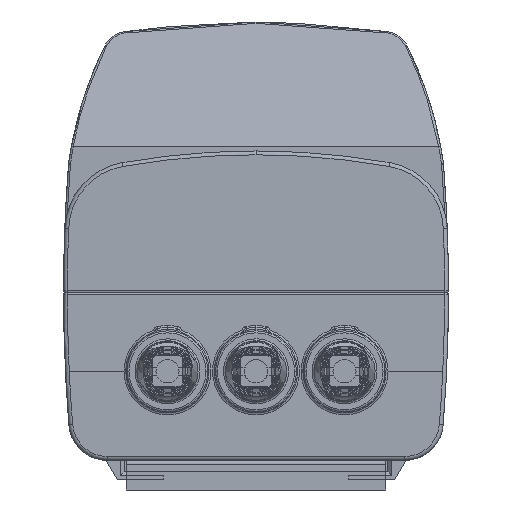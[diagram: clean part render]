
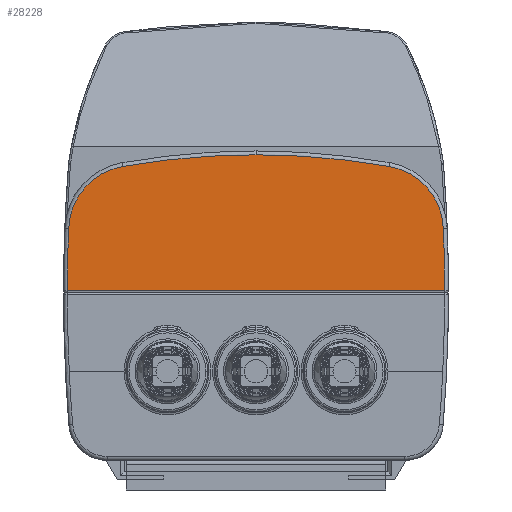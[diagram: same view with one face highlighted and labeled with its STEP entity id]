
A CAD part, front view. The second image highlights one B-rep face of the part: STEP entity #28228.
In plain terms, the highlighted planar face has unit normal (0, -1, 0).
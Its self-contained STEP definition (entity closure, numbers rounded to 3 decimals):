
#3458 = CARTESIAN_POINT ( 'NONE',  ( 4.668, -191.179, 19.312 ) ) ;
#3460 = CARTESIAN_POINT ( 'NONE',  ( -78.652, -191.179, 3.234 ) ) ;
#3465 = CARTESIAN_POINT ( 'NONE',  ( 18.695, -191.179, 3.234 ) ) ;
#3526 = CARTESIAN_POINT ( 'NONE',  ( 19.022, -191.179, -13. ) ) ;
#3556 = CARTESIAN_POINT ( 'NONE',  ( -78.978, -191.179, -13. ) ) ;
#5967 = CARTESIAN_POINT ( 'NONE',  ( -29.978, -191.179, -176.649 ) ) ;
#5969 = DIRECTION ( 'NONE',  ( 0., -1., 0. ) ) ;
#5970 = DIRECTION ( 'NONE',  ( 0., 0., 1. ) ) ;
#10939 = DIRECTION ( 'NONE',  ( 0., 1., 0. ) ) ;
#10941 = DIRECTION ( 'NONE',  ( 0., 0., 1. ) ) ;
#10960 = CARTESIAN_POINT ( 'NONE',  ( 20.022, -191.179, -50. ) ) ;
#10963 = PLANE ( 'NONE',  #37732 ) ;
#11853 = CARTESIAN_POINT ( 'NONE',  ( -64.624, -191.179, 19.312 ) ) ;
#11931 = CARTESIAN_POINT ( 'NONE',  ( -29.978, -191.179, 22.351 ) ) ;
#19709 = FACE_OUTER_BOUND ( 'NONE', #77211, .T. ) ;
#25491 = VERTEX_POINT ( 'NONE', #11853 ) ;
#25506 = VERTEX_POINT ( 'NONE', #11931 ) ;
#28228 = ADVANCED_FACE ( 'NONE', ( #19709 ), #10963, .F. ) ;
#37032 = VERTEX_POINT ( 'NONE', #3465 ) ;
#37051 = VERTEX_POINT ( 'NONE', #3458 ) ;
#37091 = VERTEX_POINT ( 'NONE', #3460 ) ;
#37137 = VERTEX_POINT ( 'NONE', #3526 ) ;
#37169 = VERTEX_POINT ( 'NONE', #3556 ) ;
#37732 = AXIS2_PLACEMENT_3D ( 'NONE', #10960, #10939, #10941 ) ;
#41405 = DIRECTION ( 'NONE',  ( 0., 0., 1. ) ) ;
#41434 = DIRECTION ( 'NONE',  ( 0., -1., 0. ) ) ;
#41465 = CARTESIAN_POINT ( 'NONE',  ( -409.978, -191.179, -13.5 ) ) ;
#41561 = CARTESIAN_POINT ( 'NONE',  ( -29.978, -191.179, -176.649 ) ) ;
#41565 = DIRECTION ( 'NONE',  ( 0., 0., 1. ) ) ;
#41570 = CARTESIAN_POINT ( 'NONE',  ( -61.665, -191.179, 2.571 ) ) ;
#41588 = DIRECTION ( 'NONE',  ( 0., -1., 0. ) ) ;
#41608 = DIRECTION ( 'NONE',  ( 0., -1., 0. ) ) ;
#41614 = DIRECTION ( 'NONE',  ( 0., 0., 1. ) ) ;
#41629 = DIRECTION ( 'NONE',  ( 0., -1., 0. ) ) ;
#41658 = CARTESIAN_POINT ( 'NONE',  ( 1.708, -191.179, 2.571 ) ) ;
#41659 = DIRECTION ( 'NONE',  ( 0., 0., 1. ) ) ;
#41686 = CARTESIAN_POINT ( 'NONE',  ( 350.022, -191.179, -13.5 ) ) ;
#41698 = DIRECTION ( 'NONE',  ( 0., -1., 0. ) ) ;
#41700 = CARTESIAN_POINT ( 'NONE',  ( 19.022, -191.179, -13. ) ) ;
#41709 = DIRECTION ( 'NONE',  ( 0., 0., 1. ) ) ;
#41722 = DIRECTION ( 'NONE',  ( 1., 0., 0. ) ) ;
#49691 = CIRCLE ( 'NONE', #72268, 429. ) ;
#49715 = CIRCLE ( 'NONE', #72297, 17. ) ;
#49730 = CIRCLE ( 'NONE', #69421, 17. ) ;
#49740 = CIRCLE ( 'NONE', #72223, 199. ) ;
#49782 = VECTOR ( 'NONE', #41722, 1000. ) ;
#49788 = CIRCLE ( 'NONE', #69337, 429. ) ;
#49793 = LINE ( 'NONE', #41700, #49782 ) ;
#49880 = CIRCLE ( 'NONE', #69332, 199. ) ;
#60834 = EDGE_CURVE ( 'NONE', #37137, #37032, #49691, .T. ) ;
#60871 = EDGE_CURVE ( 'NONE', #25491, #37091, #49715, .T. ) ;
#60877 = EDGE_CURVE ( 'NONE', #37051, #25506, #49740, .T. ) ;
#60887 = EDGE_CURVE ( 'NONE', #37032, #37051, #49730, .T. ) ;
#60895 = EDGE_CURVE ( 'NONE', #37091, #37169, #49788, .T. ) ;
#60913 = EDGE_CURVE ( 'NONE', #37169, #37137, #49793, .T. ) ;
#60988 = EDGE_CURVE ( 'NONE', #25506, #25491, #49880, .T. ) ;
#63502 = ORIENTED_EDGE ( 'NONE', *, *, #60877, .T. ) ;
#63526 = ORIENTED_EDGE ( 'NONE', *, *, #60895, .T. ) ;
#63568 = ORIENTED_EDGE ( 'NONE', *, *, #60871, .T. ) ;
#63570 = ORIENTED_EDGE ( 'NONE', *, *, #60887, .T. ) ;
#63588 = ORIENTED_EDGE ( 'NONE', *, *, #60988, .T. ) ;
#63703 = ORIENTED_EDGE ( 'NONE', *, *, #60913, .T. ) ;
#63705 = ORIENTED_EDGE ( 'NONE', *, *, #60834, .T. ) ;
#69332 = AXIS2_PLACEMENT_3D ( 'NONE', #5967, #5969, #5970 ) ;
#69337 = AXIS2_PLACEMENT_3D ( 'NONE', #41686, #41698, #41709 ) ;
#69421 = AXIS2_PLACEMENT_3D ( 'NONE', #41658, #41629, #41659 ) ;
#72223 = AXIS2_PLACEMENT_3D ( 'NONE', #41561, #41588, #41614 ) ;
#72268 = AXIS2_PLACEMENT_3D ( 'NONE', #41465, #41434, #41405 ) ;
#72297 = AXIS2_PLACEMENT_3D ( 'NONE', #41570, #41608, #41565 ) ;
#77211 = EDGE_LOOP ( 'NONE', ( #63526, #63703, #63705, #63570, #63502, #63588, #63568 ) ) ;
